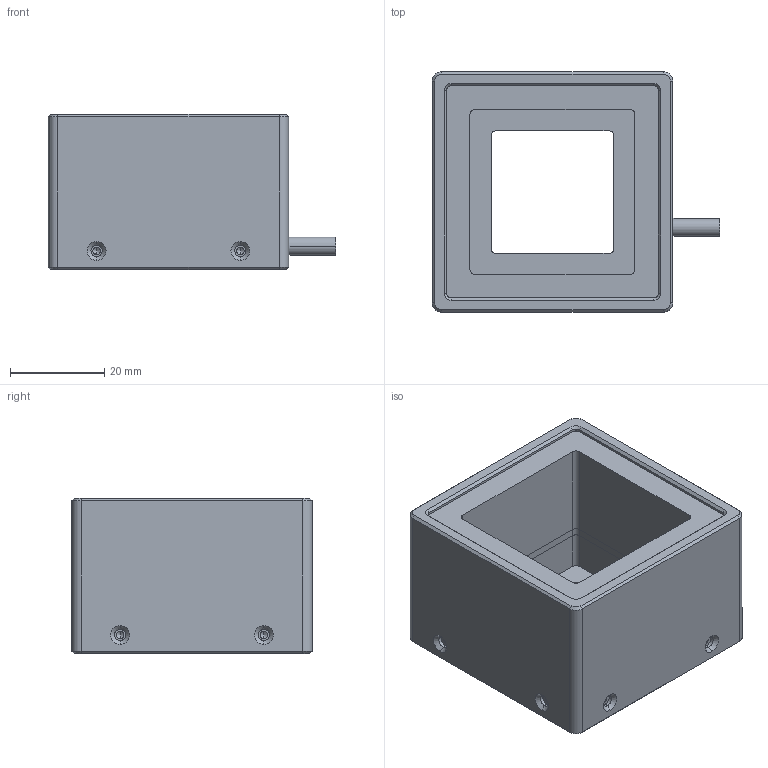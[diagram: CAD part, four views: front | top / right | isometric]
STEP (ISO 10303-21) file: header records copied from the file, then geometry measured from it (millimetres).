
FILE_DESCRIPTION (( 'STEP AP203' ), '1' );
FILE_NAME ('PPX-RIH51-W-V1.STEP', '2022-08-30T09:03:16', ( 'Windows User' ), ( 'P R C' ), 'SwSTEP 2.0', 'SolidWorks 2016', '' );
FILE_SCHEMA (( 'CONFIG_CONTROL_DESIGN' ));
Length unit declared in the file: millimetre
Products named in the file (1): PPX-RIH51-W-V1
Bounding box: 60.99 x 51 x 33 mm (x, y, z)
Volume: 40884.3 mm3; surface area: 31359.7 mm2
Topology: 4 solids, 4 shells, 456 faces, 1135 edges, 718 vertices
Faces by surface type: plane 288, cylinder 108, cone 56, torus 4
Entity records: 13362 total; most frequent: CARTESIAN_POINT 2286, DIRECTION 2277, ORIENTED_EDGE 2222, EDGE_CURVE 1111, LINE 859, VECTOR 859, VERTEX_POINT 718, AXIS2_PLACEMENT_3D 709
